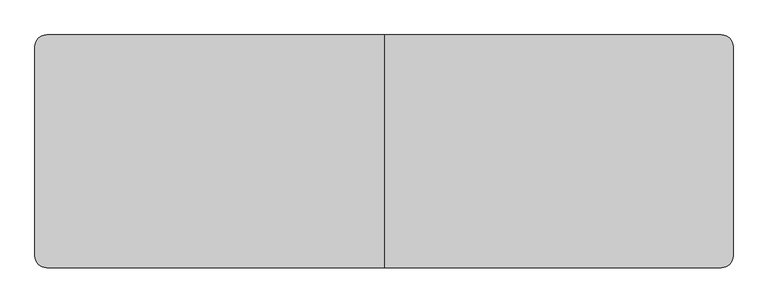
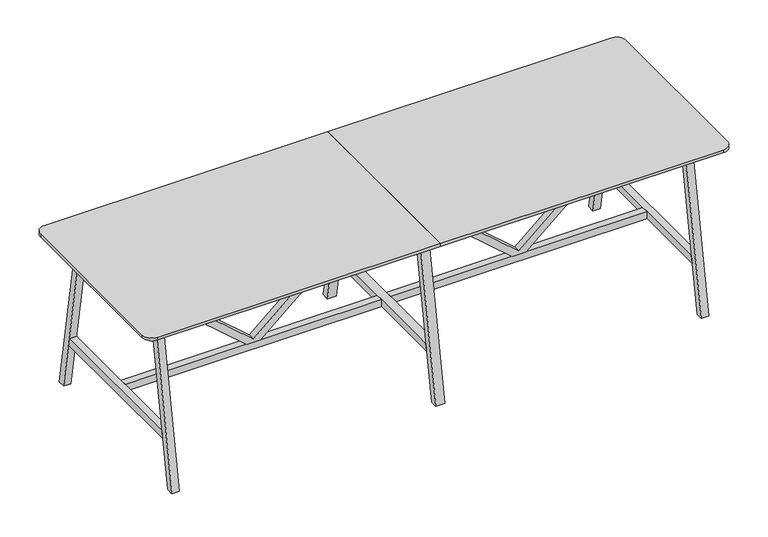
"""IFC4 building model written with IfcOpenShell, lengths in millimetres: furniture geometry, BDG_BossDesign_Tbls_AgentTables6Legs : AGE-HT-6L-3600-1200-3D."""

from ifc_helpers import new_model, si_unit, point, frame, frame_2d, origin, place, context, project, spatial, polyline, circle_curve, trimmed, segment, composite_curve, outline, extrude, source, transform, mapped, element, save


def furniture_63866d18(model_context):
    return source(origin(), model_context, "Body", "SweptSolid", [
        extrude(outline(polyline([(345.0, 774.0823957), (345.0, 858.4176043), (992.0, 1605.0), (1032.0, 1605.0), (1032.0, 1585.0), (365.0, 816.25), (1032.0, 47.5), (1032.0, 27.5), (992.0, 27.5), (345.0, 774.0823957)])), frame((0.0, -22.5000305, 0.0), z_axis=(0.0, 1.0, 0.0), x_axis=(0.0, 0.0, 1.0)), (0.0, 0.0, 1.0), 45.000061),
        extrude(outline(polyline([(345.0, -774.0823957), (992.0, -27.5), (1032.0, -27.5), (1032.0, -47.5), (365.0, -816.25), (1032.0, -1585.0), (1032.0, -1605.0), (992.0, -1605.0), (345.0, -858.4176043), (345.0, -774.0823957)])), frame((0.0, -22.5000305, 0.0), z_axis=(0.0, 1.0, 0.0), x_axis=(0.0, 0.0, 1.0)), (0.0, 0.0, 1.0), 45.000061),
        extrude(outline(polyline([(600.0, 0.0), (554.9999949, 0.0), (385.5, 970.0), (430.5000051, 970.0), (600.0, 0.0)])), frame((-27.5, 0.0, 0.0), z_axis=(1.0, 0.0, 0.0), x_axis=(0.0, 1.0, 0.0)), (0.0, 0.0, 1.0), 55.0),
        extrude(outline(polyline([(-600.0, 0.0), (-430.5000051, 970.0), (-385.5, 970.0), (-554.9999949, 0.0), (-600.0, 0.0)])), frame((-27.5, 0.0, 0.0), z_axis=(1.0, 0.0, 0.0), x_axis=(0.0, 1.0, 0.0)), (0.0, 0.0, 1.0), 55.0),
        extrude(outline(polyline([(502.5773161, 300.0), (-502.5773161, 300.0), (-494.7139143, 345.0), (494.7139143, 345.0), (502.5773161, 300.0)])), frame((-27.5, 0.0, 0.0), z_axis=(1.0, 0.0, 0.0), x_axis=(0.0, 1.0, 0.0)), (0.0, 0.0, 1.0), 55.0),
        extrude(outline(composite_curve([segment(polyline([(0.0, 600.0), (0.0, -600.0), (-1740.0, -600.0)]), True, "CONTINUOUS"), segment(trimmed(circle_curve(frame_2d((-1740.0, -540.0)), 60.0), [point((-1740.0, -600.0))], [point((-1800.0, -540.0))], False, "CARTESIAN"), True, "CONTINUOUS"), segment(polyline([(-1800.0, -540.0), (-1800.0, 540.0)]), True, "CONTINUOUS"), segment(trimmed(circle_curve(frame_2d((-1740.0, 540.0)), 60.0), [point((-1800.0, 540.0))], [point((-1740.0, 600.0))], False, "CARTESIAN"), True, "CONTINUOUS"), segment(polyline([(-1740.0, 600.0), (0.0, 600.0)]), True, "CONTINUOUS")], self_intersect=False)), frame((0.0, 0.0, 1032.0), z_axis=(0.0, 0.0, 1.0), x_axis=(1.0, 0.0, 0.0)), (0.0, 0.0, 1.0), 18.0),
        extrude(outline(polyline([(-494.7139143, 345.0), (494.7139143, 345.0), (502.5773161, 300.0), (-502.5773161, 300.0), (-494.7139143, 345.0)])), frame((1605.0, 0.0, 0.0), z_axis=(1.0, 0.0, 0.0), x_axis=(0.0, 1.0, 0.0)), (0.0, 0.0, 1.0), 45.0),
        extrude(outline(polyline([(600.0, 0.0), (554.9999949, 0.0), (385.5, 970.0), (430.5000051, 970.0), (600.0, 0.0)])), frame((-1650.0, 0.0, 0.0), z_axis=(1.0, 0.0, 0.0), x_axis=(0.0, 1.0, 0.0)), (0.0, 0.0, 1.0), 45.0),
        extrude(outline(polyline([(-600.0, 0.0), (-430.5000051, 970.0), (-385.5, 970.0), (-554.9999949, 0.0), (-600.0, 0.0)])), frame((-1650.0, 0.0, 0.0), z_axis=(1.0, 0.0, 0.0), x_axis=(0.0, 1.0, 0.0)), (0.0, 0.0, 1.0), 45.0),
        extrude(outline(polyline([(-494.7139143, 345.0), (494.7139143, 345.0), (502.5773161, 300.0), (-502.5773161, 300.0), (-494.7139143, 345.0)])), frame((-1650.0, 0.0, 0.0), z_axis=(1.0, 0.0, 0.0), x_axis=(0.0, 1.0, 0.0)), (0.0, 0.0, 1.0), 45.0),
        extrude(outline(polyline([(-426.6006165, 944.973938), (-404.2770691, 1032.0), (-379.5, 1032.0), (-401.8235474, 944.973938), (-426.6006165, 944.973938)])), frame((-1605.0, 0.0, 0.0), z_axis=(1.0, 0.0, 0.0), x_axis=(0.0, 1.0, 0.0)), (0.0, 0.0, 1.0), 3210.0),
        extrude(outline(polyline([(426.6006165, 944.973938), (401.8235474, 944.973938), (379.5, 1032.0), (404.2770691, 1032.0), (426.6006165, 944.973938)])), frame((-1605.0, 0.0, 0.0), z_axis=(1.0, 0.0, 0.0), x_axis=(0.0, 1.0, 0.0)), (0.0, 0.0, 1.0), 3210.0),
        extrude(outline(polyline([(599.7999878, 0.0), (554.7999827, 0.0), (385.5, 970.0), (430.5000051, 970.0), (599.7999878, 0.0)])), frame((1605.0, 0.0, 0.0), z_axis=(1.0, 0.0, 0.0), x_axis=(0.0, 1.0, 0.0)), (0.0, 0.0, 1.0), 45.0),
        extrude(outline(polyline([(-599.7999878, 0.0), (-430.5000051, 970.0), (-385.5, 970.0), (-554.7999827, 0.0), (-599.7999878, 0.0)])), frame((1605.0, 0.0, 0.0), z_axis=(1.0, 0.0, 0.0), x_axis=(0.0, 1.0, 0.0)), (0.0, 0.0, 1.0), 45.0),
        extrude(outline(polyline([(-27.5, 22.5000305), (-27.5, -22.5000305), (-1605.0, -22.5000305), (-1605.0, 22.5000305), (-27.5, 22.5000305)])), frame((0.0, 0.0, 300.0), z_axis=(0.0, 0.0, 1.0), x_axis=(1.0, 0.0, 0.0)), (0.0, 0.0, 1.0), 45.0),
        extrude(outline(polyline([(27.5, -22.5000305), (27.5, 22.5000305), (1605.0, 22.5000305), (1605.0, -22.5000305), (27.5, -22.5000305)])), frame((0.0, 0.0, 300.0), z_axis=(0.0, 0.0, 1.0), x_axis=(1.0, 0.0, 0.0)), (0.0, 0.0, 1.0), 45.0),
        extrude(outline(composite_curve([segment(trimmed(circle_curve(frame_2d((1740.0, 540.0)), 60.0), [point((1740.0, 600.0))], [point((1800.0, 540.0))], False, "CARTESIAN"), True, "CONTINUOUS"), segment(polyline([(1800.0, 540.0), (1800.0, -540.0)]), True, "CONTINUOUS"), segment(trimmed(circle_curve(frame_2d((1740.0, -540.0)), 60.0), [point((1800.0, -540.0))], [point((1740.0, -600.0))], False, "CARTESIAN"), True, "CONTINUOUS"), segment(polyline([(1740.0, -600.0), (0.0, -600.0), (0.0, 600.0), (1740.0, 600.0)]), True, "CONTINUOUS")], self_intersect=False)), frame((0.0, 0.0, 1032.0), z_axis=(0.0, 0.0, 1.0), x_axis=(1.0, 0.0, 0.0)), (0.0, 0.0, 1.0), 18.0),
    ])


if __name__ == "__main__":
    model = new_model("IFC4")
    model_context = context("Model", 3, world=origin())
    ifc_project = project(units=[si_unit("LENGTHUNIT", "METRE", prefix="MILLI")], contexts=[model_context])
    site = spatial("IfcSite", under=ifc_project)
    building = spatial("IfcBuilding", under=site)
    placement = place(None, origin())
    furniture_shape = furniture_63866d18(model_context)
    element("IfcFurniture", 1, ObjectType="BDG_BossDesign_Tbls_AgentTables6Legs : AGE-HT-6L-3600-1200-3D", at=placement, inside=building, context=model_context, shape_type="MappedRepresentation", body=[
        mapped(furniture_shape, transform((0.0, 0.0, 0.0), x_axis=(1.0, 0.0, 0.0), y_axis=(0.0, 1.0, 0.0), z_axis=(0.0, 0.0, 1.0))),
    ])
    save(model, "model.ifc")
